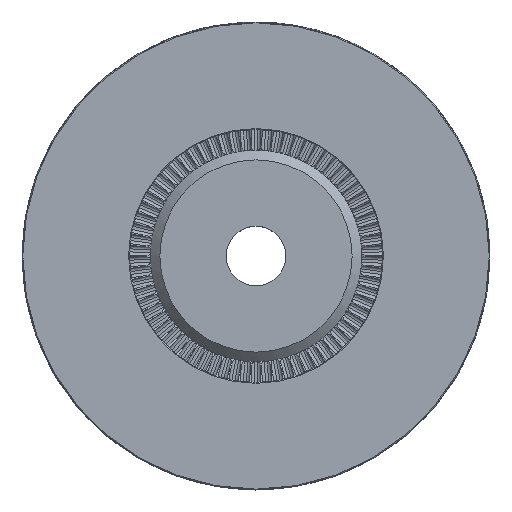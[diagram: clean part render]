
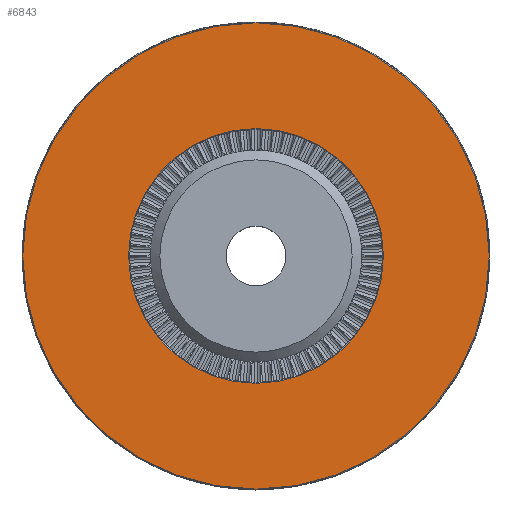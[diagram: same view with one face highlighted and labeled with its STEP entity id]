
A CAD part, top view. The second image highlights one B-rep face of the part: STEP entity #6843.
In plain terms, the highlighted planar face has unit normal (0, 0, 1).
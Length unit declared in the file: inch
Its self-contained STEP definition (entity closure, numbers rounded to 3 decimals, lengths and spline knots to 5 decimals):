
#302 = ORIENTED_EDGE ( 'NONE', *, *, #48117, .T. ) ;
#1506 = AXIS2_PLACEMENT_3D ( 'NONE', #11366, #39349, #15396 ) ;
#1635 = CARTESIAN_POINT ( 'NONE',  ( 0., 0., 1. ) ) ;
#4584 = EDGE_LOOP ( 'NONE', ( #302 ) ) ;
#5639 = DIRECTION ( 'NONE',  ( -1., 0., 0. ) ) ;
#6843 = ADVANCED_FACE ( 'NONE', ( #50137, #36997 ), #24249, .F. ) ;
#8313 = VERTEX_POINT ( 'NONE', #22842 ) ;
#11366 = CARTESIAN_POINT ( 'NONE',  ( 0., 0., 1. ) ) ;
#15396 = DIRECTION ( 'NONE',  ( -1., 0., 0. ) ) ;
#17254 = CIRCLE ( 'NONE', #26225, 9.095 ) ;
#18632 = EDGE_LOOP ( 'NONE', ( #49484 ) ) ;
#18820 = CARTESIAN_POINT ( 'NONE',  ( -4.9675, 0., 1. ) ) ;
#19905 = CIRCLE ( 'NONE', #1506, 4.9675 ) ;
#20548 = DIRECTION ( 'NONE',  ( 0., 0., -1. ) ) ;
#22842 = CARTESIAN_POINT ( 'NONE',  ( -9.095, 0., 1. ) ) ;
#24249 = PLANE ( 'NONE',  #48676 ) ;
#26225 = AXIS2_PLACEMENT_3D ( 'NONE', #1635, #29591, #5639 ) ;
#29576 = VERTEX_POINT ( 'NONE', #18820 ) ;
#29591 = DIRECTION ( 'NONE',  ( 0., 0., 1. ) ) ;
#36144 = CARTESIAN_POINT ( 'NONE',  ( 0., 9.125, 1. ) ) ;
#36997 = FACE_OUTER_BOUND ( 'NONE', #4584, .T. ) ;
#37608 = EDGE_CURVE ( 'NONE', #29576, #29576, #19905, .T. ) ;
#39349 = DIRECTION ( 'NONE',  ( 0., 0., -1. ) ) ;
#48117 = EDGE_CURVE ( 'NONE', #8313, #8313, #17254, .T. ) ;
#48539 = DIRECTION ( 'NONE',  ( -1., 0., 0. ) ) ;
#48676 = AXIS2_PLACEMENT_3D ( 'NONE', #36144, #20548, #48539 ) ;
#49484 = ORIENTED_EDGE ( 'NONE', *, *, #37608, .T. ) ;
#50137 = FACE_BOUND ( 'NONE', #18632, .T. ) ;
